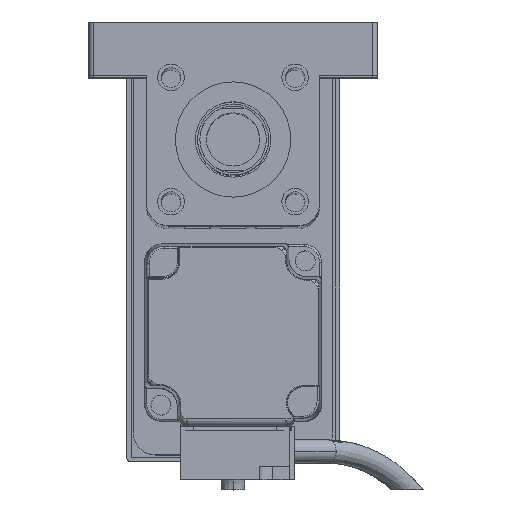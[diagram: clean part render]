
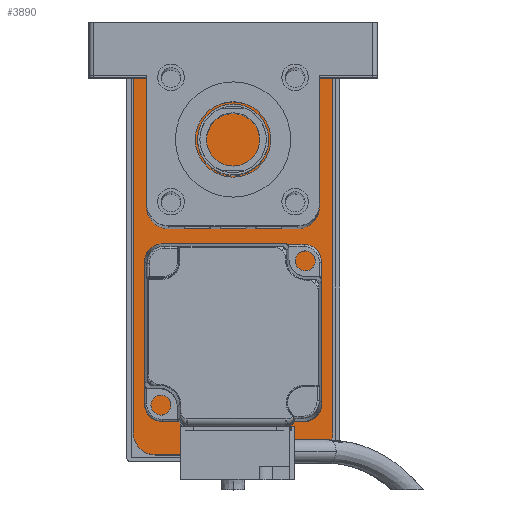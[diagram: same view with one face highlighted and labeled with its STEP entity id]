
A CAD part, top view. The second image highlights one B-rep face of the part: STEP entity #3890.
In plain terms, the highlighted planar face has unit normal (0, 0, 1).
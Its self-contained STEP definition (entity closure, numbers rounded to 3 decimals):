
#112 = VERTEX_POINT ( 'NONE', #11472 ) ;
#333 = DIRECTION ( 'NONE',  ( 0., -1., 0. ) ) ;
#1201 = VECTOR ( 'NONE', #21040, 1000. ) ;
#1384 = VERTEX_POINT ( 'NONE', #18308 ) ;
#1564 = VERTEX_POINT ( 'NONE', #22391 ) ;
#1993 = DIRECTION ( 'NONE',  ( 0., 0., 1. ) ) ;
#2601 = ORIENTED_EDGE ( 'NONE', *, *, #10210, .T. ) ;
#3481 = CARTESIAN_POINT ( 'NONE',  ( 17.5, -40., 10. ) ) ;
#3785 = CIRCLE ( 'NONE', #23650, 5. ) ;
#3890 = ADVANCED_FACE ( 'NONE', ( #20223 ), #19265, .T. ) ;
#5562 = LINE ( 'NONE', #16033, #14158 ) ;
#5985 = VECTOR ( 'NONE', #10071, 1000. ) ;
#6440 = EDGE_CURVE ( 'NONE', #10354, #8963, #3785, .T. ) ;
#7002 = CARTESIAN_POINT ( 'NONE',  ( 22.5, 40., 10. ) ) ;
#7280 = CARTESIAN_POINT ( 'NONE',  ( 22.5, 45., 10. ) ) ;
#7490 = DIRECTION ( 'NONE',  ( 0., 0., 1. ) ) ;
#8180 = ORIENTED_EDGE ( 'NONE', *, *, #25144, .T. ) ;
#8963 = VERTEX_POINT ( 'NONE', #19164 ) ;
#9325 = DIRECTION ( 'NONE',  ( 0., 1., 0. ) ) ;
#9351 = CARTESIAN_POINT ( 'NONE',  ( 0., 0., 10. ) ) ;
#9504 = DIRECTION ( 'NONE',  ( 0., 0., 1. ) ) ;
#9670 = DIRECTION ( 'NONE',  ( 1., 0., 0. ) ) ;
#9954 = DIRECTION ( 'NONE',  ( 1., 0., 0. ) ) ;
#10071 = DIRECTION ( 'NONE',  ( 1., 0., 0. ) ) ;
#10210 = EDGE_CURVE ( 'NONE', #8963, #21125, #22851, .T. ) ;
#10354 = VERTEX_POINT ( 'NONE', #7002 ) ;
#10818 = EDGE_LOOP ( 'NONE', ( #23906, #13861, #2601, #8180, #14207, #21615, #13792, #24326 ) ) ;
#10853 = DIRECTION ( 'NONE',  ( 1., 0., 0. ) ) ;
#11472 = CARTESIAN_POINT ( 'NONE',  ( -17.5, -45., 10. ) ) ;
#11508 = EDGE_CURVE ( 'NONE', #16966, #1564, #5562, .T. ) ;
#11521 = CARTESIAN_POINT ( 'NONE',  ( 17.5, -45., 10. ) ) ;
#11777 = CARTESIAN_POINT ( 'NONE',  ( 17.5, 40., 10. ) ) ;
#12146 = EDGE_CURVE ( 'NONE', #1564, #112, #19372, .T. ) ;
#12301 = CARTESIAN_POINT ( 'NONE',  ( -17.5, 45., 10. ) ) ;
#12991 = CARTESIAN_POINT ( 'NONE',  ( -22.5, 40., 10. ) ) ;
#13792 = ORIENTED_EDGE ( 'NONE', *, *, #16726, .T. ) ;
#13859 = CARTESIAN_POINT ( 'NONE',  ( 22.5, -45., 10. ) ) ;
#13861 = ORIENTED_EDGE ( 'NONE', *, *, #6440, .T. ) ;
#14027 = EDGE_CURVE ( 'NONE', #1384, #10354, #19330, .T. ) ;
#14079 = VECTOR ( 'NONE', #9325, 1000. ) ;
#14158 = VECTOR ( 'NONE', #333, 1000. ) ;
#14207 = ORIENTED_EDGE ( 'NONE', *, *, #11508, .T. ) ;
#15954 = CIRCLE ( 'NONE', #18167, 5. ) ;
#16033 = CARTESIAN_POINT ( 'NONE',  ( -22.5, -45., 10. ) ) ;
#16696 = DIRECTION ( 'NONE',  ( 0., 0., 1. ) ) ;
#16726 = EDGE_CURVE ( 'NONE', #112, #22185, #19529, .T. ) ;
#16966 = VERTEX_POINT ( 'NONE', #12991 ) ;
#17030 = CARTESIAN_POINT ( 'NONE',  ( -17.5, -40., 10. ) ) ;
#18167 = AXIS2_PLACEMENT_3D ( 'NONE', #20839, #24839, #22946 ) ;
#18308 = CARTESIAN_POINT ( 'NONE',  ( 22.5, -40., 10. ) ) ;
#18554 = AXIS2_PLACEMENT_3D ( 'NONE', #9351, #7490, #22991 ) ;
#19164 = CARTESIAN_POINT ( 'NONE',  ( 17.5, 45., 10. ) ) ;
#19265 = PLANE ( 'NONE',  #18554 ) ;
#19330 = LINE ( 'NONE', #21132, #14079 ) ;
#19372 = CIRCLE ( 'NONE', #20428, 5. ) ;
#19529 = LINE ( 'NONE', #13859, #5985 ) ;
#20223 = FACE_OUTER_BOUND ( 'NONE', #10818, .T. ) ;
#20428 = AXIS2_PLACEMENT_3D ( 'NONE', #17030, #16696, #10853 ) ;
#20800 = AXIS2_PLACEMENT_3D ( 'NONE', #3481, #9504, #9670 ) ;
#20839 = CARTESIAN_POINT ( 'NONE',  ( -17.5, 40., 10. ) ) ;
#21040 = DIRECTION ( 'NONE',  ( -1., 0., 0. ) ) ;
#21125 = VERTEX_POINT ( 'NONE', #12301 ) ;
#21132 = CARTESIAN_POINT ( 'NONE',  ( 22.5, -45., 10. ) ) ;
#21615 = ORIENTED_EDGE ( 'NONE', *, *, #12146, .T. ) ;
#22185 = VERTEX_POINT ( 'NONE', #11521 ) ;
#22391 = CARTESIAN_POINT ( 'NONE',  ( -22.5, -40., 10. ) ) ;
#22851 = LINE ( 'NONE', #7280, #1201 ) ;
#22946 = DIRECTION ( 'NONE',  ( 1., 0., 0. ) ) ;
#22991 = DIRECTION ( 'NONE',  ( 1., 0., 0. ) ) ;
#23650 = AXIS2_PLACEMENT_3D ( 'NONE', #11777, #1993, #9954 ) ;
#23779 = CIRCLE ( 'NONE', #20800, 5. ) ;
#23906 = ORIENTED_EDGE ( 'NONE', *, *, #14027, .T. ) ;
#24263 = EDGE_CURVE ( 'NONE', #22185, #1384, #23779, .T. ) ;
#24326 = ORIENTED_EDGE ( 'NONE', *, *, #24263, .T. ) ;
#24839 = DIRECTION ( 'NONE',  ( 0., 0., 1. ) ) ;
#25144 = EDGE_CURVE ( 'NONE', #21125, #16966, #15954, .T. ) ;
